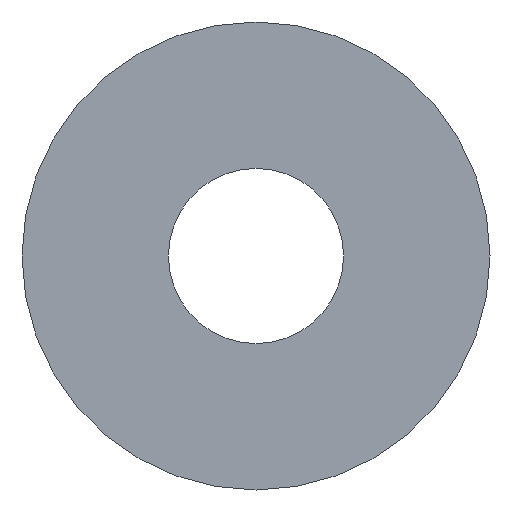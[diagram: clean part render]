
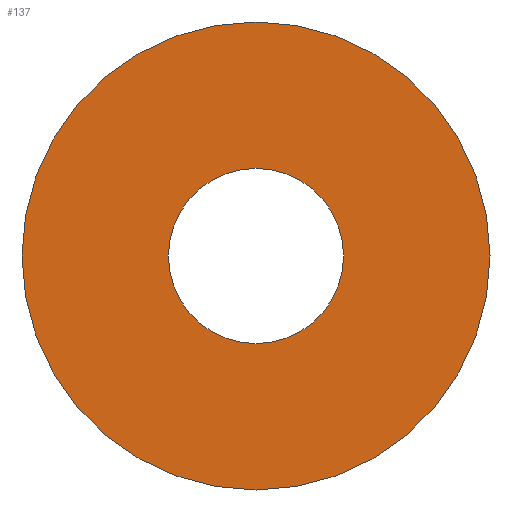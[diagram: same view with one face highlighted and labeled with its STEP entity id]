
A CAD part, front view. The second image highlights one B-rep face of the part: STEP entity #137.
In plain terms, the highlighted planar face has unit normal (0, -1, 0).
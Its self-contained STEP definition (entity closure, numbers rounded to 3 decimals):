
#9 = VERTEX_POINT ( 'NONE', #72 ) ;
#11 = FACE_OUTER_BOUND ( 'NONE', #86, .T. ) ;
#22 = CARTESIAN_POINT ( 'NONE',  ( 0., 0., -13.1 ) ) ;
#25 = DIRECTION ( 'NONE',  ( 0., 0., 1. ) ) ;
#27 = DIRECTION ( 'NONE',  ( 0., 1., 0. ) ) ;
#28 = CARTESIAN_POINT ( 'NONE',  ( 0., 0., 0. ) ) ;
#29 = FACE_BOUND ( 'NONE', #225, .T. ) ;
#30 = DIRECTION ( 'NONE',  ( 0., 0., 1. ) ) ;
#31 = DIRECTION ( 'NONE',  ( 0., 1., 0. ) ) ;
#34 = CARTESIAN_POINT ( 'NONE',  ( 0., 0., 0. ) ) ;
#37 = DIRECTION ( 'NONE',  ( 0., 0., 1. ) ) ;
#38 = DIRECTION ( 'NONE',  ( 0., 1., 0. ) ) ;
#40 = CARTESIAN_POINT ( 'NONE',  ( 0., 0., 0. ) ) ;
#44 = ORIENTED_EDGE ( 'NONE', *, *, #213, .T. ) ;
#46 = PLANE ( 'NONE',  #201 ) ;
#51 = VERTEX_POINT ( 'NONE', #70 ) ;
#62 = CARTESIAN_POINT ( 'NONE',  ( 0., 0., 35. ) ) ;
#67 = VERTEX_POINT ( 'NONE', #62 ) ;
#70 = CARTESIAN_POINT ( 'NONE',  ( 0., 0., -35. ) ) ;
#72 = CARTESIAN_POINT ( 'NONE',  ( 0., 0., 13.1 ) ) ;
#86 = EDGE_LOOP ( 'NONE', ( #111, #233 ) ) ;
#111 = ORIENTED_EDGE ( 'NONE', *, *, #133, .F. ) ;
#113 = CIRCLE ( 'NONE', #192, 13.1 ) ;
#132 = EDGE_CURVE ( 'NONE', #9, #169, #113, .T. ) ;
#133 = EDGE_CURVE ( 'NONE', #51, #67, #218, .T. ) ;
#137 = ADVANCED_FACE ( 'NONE', ( #11, #29 ), #46, .F. ) ;
#162 = CIRCLE ( 'NONE', #200, 35. ) ;
#165 = DIRECTION ( 'NONE',  ( 0., 0., 1. ) ) ;
#166 = CARTESIAN_POINT ( 'NONE',  ( 0., 0., 0. ) ) ;
#167 = DIRECTION ( 'NONE',  ( 0., 1., 0. ) ) ;
#169 = VERTEX_POINT ( 'NONE', #22 ) ;
#192 = AXIS2_PLACEMENT_3D ( 'NONE', #40, #38, #37 ) ;
#195 = AXIS2_PLACEMENT_3D ( 'NONE', #166, #167, #165 ) ;
#196 = CARTESIAN_POINT ( 'NONE',  ( 0., 0., 0. ) ) ;
#200 = AXIS2_PLACEMENT_3D ( 'NONE', #196, #248, #246 ) ;
#201 = AXIS2_PLACEMENT_3D ( 'NONE', #34, #27, #25 ) ;
#203 = AXIS2_PLACEMENT_3D ( 'NONE', #28, #31, #30 ) ;
#209 = EDGE_CURVE ( 'NONE', #67, #51, #162, .T. ) ;
#213 = EDGE_CURVE ( 'NONE', #169, #9, #228, .T. ) ;
#218 = CIRCLE ( 'NONE', #203, 35. ) ;
#219 = ORIENTED_EDGE ( 'NONE', *, *, #132, .T. ) ;
#225 = EDGE_LOOP ( 'NONE', ( #44, #219 ) ) ;
#228 = CIRCLE ( 'NONE', #195, 13.1 ) ;
#233 = ORIENTED_EDGE ( 'NONE', *, *, #209, .F. ) ;
#246 = DIRECTION ( 'NONE',  ( 0., 0., 1. ) ) ;
#248 = DIRECTION ( 'NONE',  ( 0., 1., 0. ) ) ;
